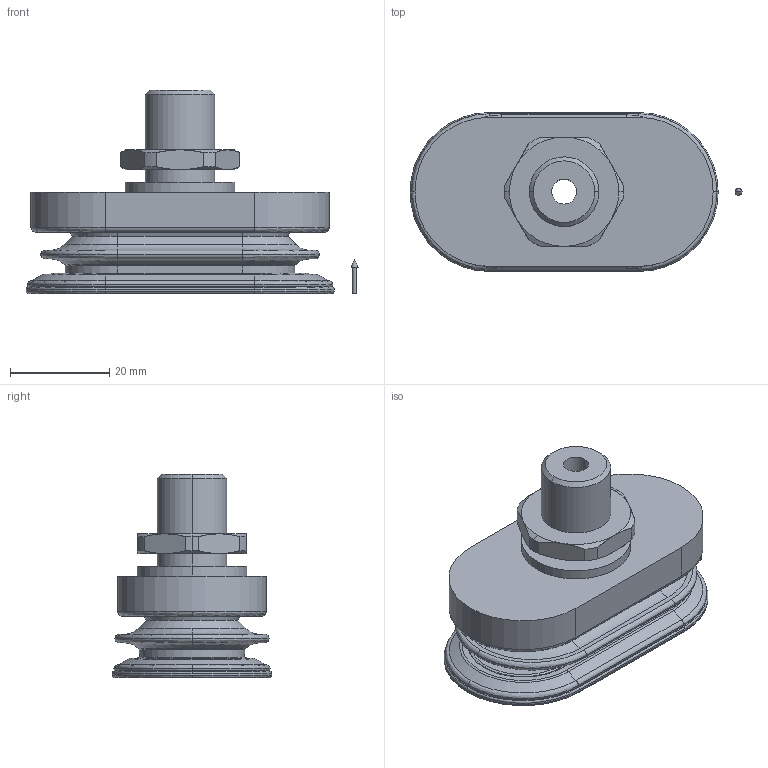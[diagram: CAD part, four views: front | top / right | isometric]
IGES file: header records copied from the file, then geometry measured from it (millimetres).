
Start section: 3D InterOp IGES (v. 2018 1.0.2), Spatial Corp. Copyright (c) 1999-2017.
Global section: file name: schmalz_10_01_06_01032_8gn14b4c0c8p56cjp02u35fda.igs; native system: Spatial Corp.; preprocessor: 3D InterOp ACIS/IGES; author: TraceParts; organization: TraceParts S.A.; date: 20181025.110021; units: millimetre
Bounding box: 66.8 x 32 x 41 mm (x, y, z)
Surface area: 11605.5 mm2 (no closed solid volume)
Topology: 0 solids, 0 shells, 203 faces, 926 edges, 924 vertices
Faces by surface type: revolution 140, extrusion 63
